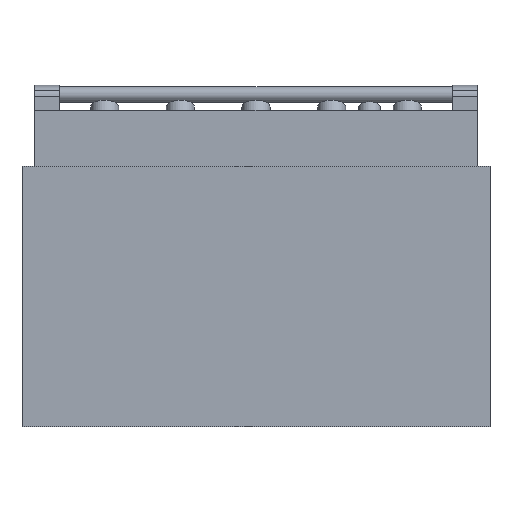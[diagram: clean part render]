
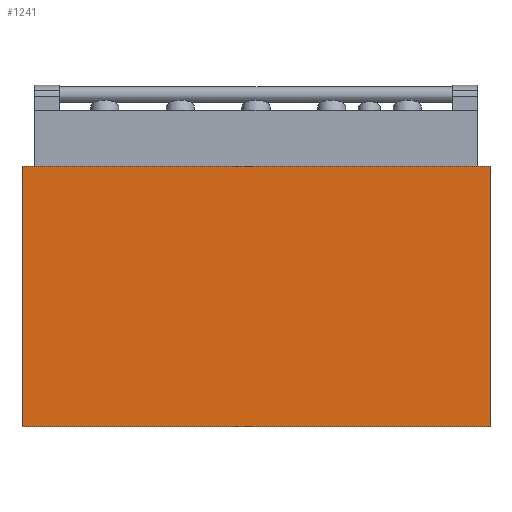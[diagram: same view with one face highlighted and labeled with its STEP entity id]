
A CAD part, front view. The second image highlights one B-rep face of the part: STEP entity #1241.
In plain terms, the highlighted planar face has unit normal (0, -1, 0).
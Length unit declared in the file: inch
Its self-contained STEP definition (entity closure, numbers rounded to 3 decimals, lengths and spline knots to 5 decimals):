
#21 = CARTESIAN_POINT ( 'NONE',  ( 20.875, -11.25, -14.626 ) ) ;
#104 = LINE ( 'NONE', #890, #1055 ) ;
#135 = AXIS2_PLACEMENT_3D ( 'NONE', #526, #1123, #1600 ) ;
#165 = VERTEX_POINT ( 'NONE', #21 ) ;
#181 = EDGE_CURVE ( 'NONE', #1393, #1766, #1162, .T. ) ;
#417 = CARTESIAN_POINT ( 'NONE',  ( 20.875, -11.25, -14.626 ) ) ;
#484 = ORIENTED_EDGE ( 'NONE', *, *, #738, .T. ) ;
#526 = CARTESIAN_POINT ( 'NONE',  ( 20.875, -11.25, 8.587 ) ) ;
#717 = VECTOR ( 'NONE', #1022, 39.37008 ) ;
#738 = EDGE_CURVE ( 'NONE', #1766, #1001, #1210, .T. ) ;
#890 = CARTESIAN_POINT ( 'NONE',  ( 20.875, -11.25, 8.587 ) ) ;
#1001 = VERTEX_POINT ( 'NONE', #1662 ) ;
#1020 = DIRECTION ( 'NONE',  ( -1., 0., 0. ) ) ;
#1022 = DIRECTION ( 'NONE',  ( -1., 0., 0. ) ) ;
#1026 = VECTOR ( 'NONE', #1020, 39.37008 ) ;
#1049 = EDGE_CURVE ( 'NONE', #1393, #165, #104, .T. ) ;
#1055 = VECTOR ( 'NONE', #1415, 39.37008 ) ;
#1123 = DIRECTION ( 'NONE',  ( 0., 1., 0. ) ) ;
#1161 = ORIENTED_EDGE ( 'NONE', *, *, #1642, .F. ) ;
#1162 = LINE ( 'NONE', #1167, #1026 ) ;
#1167 = CARTESIAN_POINT ( 'NONE',  ( 20.875, -11.25, 8.587 ) ) ;
#1210 = LINE ( 'NONE', #1218, #1500 ) ;
#1218 = CARTESIAN_POINT ( 'NONE',  ( -20.875, -11.25, 8.587 ) ) ;
#1225 = DIRECTION ( 'NONE',  ( 0., 0., -1. ) ) ;
#1241 = ADVANCED_FACE ( 'NONE', ( #1253 ), #1718, .F. ) ;
#1253 = FACE_OUTER_BOUND ( 'NONE', #1441, .T. ) ;
#1261 = CARTESIAN_POINT ( 'NONE',  ( 20.875, -11.25, 8.587 ) ) ;
#1296 = CARTESIAN_POINT ( 'NONE',  ( -20.875, -11.25, 8.587 ) ) ;
#1393 = VERTEX_POINT ( 'NONE', #1261 ) ;
#1415 = DIRECTION ( 'NONE',  ( 0., 0., -1. ) ) ;
#1441 = EDGE_LOOP ( 'NONE', ( #484, #1161, #1504, #1451 ) ) ;
#1451 = ORIENTED_EDGE ( 'NONE', *, *, #181, .T. ) ;
#1500 = VECTOR ( 'NONE', #1225, 39.37008 ) ;
#1504 = ORIENTED_EDGE ( 'NONE', *, *, #1049, .F. ) ;
#1600 = DIRECTION ( 'NONE',  ( 0., 0., 1. ) ) ;
#1628 = LINE ( 'NONE', #417, #717 ) ;
#1642 = EDGE_CURVE ( 'NONE', #165, #1001, #1628, .T. ) ;
#1662 = CARTESIAN_POINT ( 'NONE',  ( -20.875, -11.25, -14.626 ) ) ;
#1718 = PLANE ( 'NONE',  #135 ) ;
#1766 = VERTEX_POINT ( 'NONE', #1296 ) ;
